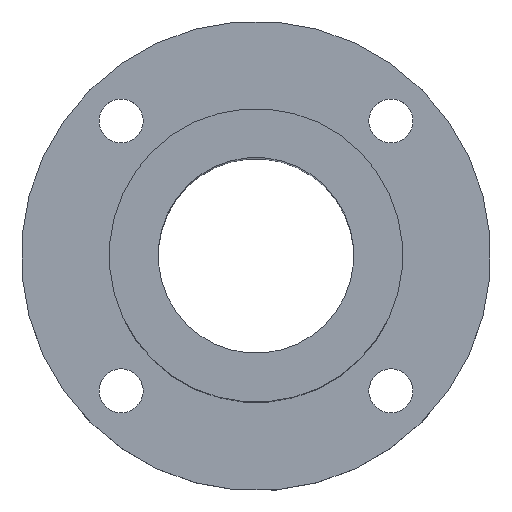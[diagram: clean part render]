
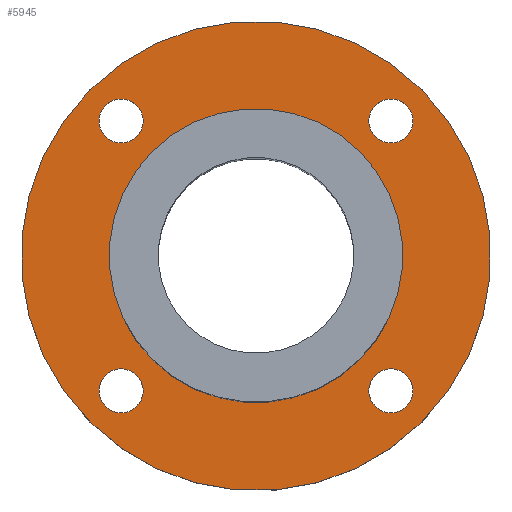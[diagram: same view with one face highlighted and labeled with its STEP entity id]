
A CAD part, top view. The second image highlights one B-rep face of the part: STEP entity #5945.
In plain terms, the highlighted planar face has unit normal (0, 0, 1).
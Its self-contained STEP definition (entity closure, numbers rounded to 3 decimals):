
#108=CIRCLE('',#6318,30.);
#112=CIRCLE('',#6326,48.);
#113=CIRCLE('',#6328,4.5);
#114=CIRCLE('',#6329,4.5);
#115=CIRCLE('',#6330,4.5);
#116=CIRCLE('',#6331,4.5);
#518=ORIENTED_EDGE('',*,*,#2222,.F.);
#519=ORIENTED_EDGE('',*,*,#2223,.F.);
#520=ORIENTED_EDGE('',*,*,#2224,.F.);
#521=ORIENTED_EDGE('',*,*,#2225,.F.);
#522=ORIENTED_EDGE('',*,*,#2217,.T.);
#523=ORIENTED_EDGE('',*,*,#2221,.T.);
#2217=EDGE_CURVE('',#3072,#3072,#108,.F.);
#2221=EDGE_CURVE('',#3076,#3076,#112,.T.);
#2222=EDGE_CURVE('',#3077,#3077,#113,.T.);
#2223=EDGE_CURVE('',#3078,#3078,#114,.T.);
#2224=EDGE_CURVE('',#3079,#3079,#115,.T.);
#2225=EDGE_CURVE('',#3080,#3080,#116,.T.);
#3072=VERTEX_POINT('',#9331);
#3076=VERTEX_POINT('',#9343);
#3077=VERTEX_POINT('',#9346);
#3078=VERTEX_POINT('',#9348);
#3079=VERTEX_POINT('',#9350);
#3080=VERTEX_POINT('',#9352);
#4869=EDGE_LOOP('',(#518));
#4870=EDGE_LOOP('',(#519));
#4871=EDGE_LOOP('',(#520));
#4872=EDGE_LOOP('',(#521));
#4873=EDGE_LOOP('',(#522));
#4874=EDGE_LOOP('',(#523));
#5296=FACE_BOUND('',#4869,.T.);
#5297=FACE_BOUND('',#4870,.T.);
#5298=FACE_BOUND('',#4871,.T.);
#5299=FACE_BOUND('',#4872,.T.);
#5300=FACE_BOUND('',#4873,.T.);
#5301=FACE_BOUND('',#4874,.T.);
#5665=PLANE('',#6327);
#5945=ADVANCED_FACE('',(#5296,#5297,#5298,#5299,#5300,#5301),#5665,.T.);
#6318=AXIS2_PLACEMENT_3D('',#9330,#6873,#6874);
#6326=AXIS2_PLACEMENT_3D('',#9342,#6889,#6890);
#6327=AXIS2_PLACEMENT_3D('',#9344,#6891,#6892);
#6328=AXIS2_PLACEMENT_3D('',#9345,#6893,#6894);
#6329=AXIS2_PLACEMENT_3D('',#9347,#6895,#6896);
#6330=AXIS2_PLACEMENT_3D('',#9349,#6897,#6898);
#6331=AXIS2_PLACEMENT_3D('',#9351,#6899,#6900);
#6873=DIRECTION('',(0.,0.,1.));
#6874=DIRECTION('',(0.707,-0.707,0.));
#6889=DIRECTION('',(0.,0.,1.));
#6890=DIRECTION('',(0.707,-0.707,0.));
#6891=DIRECTION('',(0.,0.,1.));
#6892=DIRECTION('',(0.707,-0.707,0.));
#6893=DIRECTION('',(0.,0.,1.));
#6894=DIRECTION('',(0.707,-0.707,0.));
#6895=DIRECTION('',(0.,0.,1.));
#6896=DIRECTION('',(0.707,-0.707,0.));
#6897=DIRECTION('',(0.,0.,1.));
#6898=DIRECTION('',(0.707,-0.707,0.));
#6899=DIRECTION('',(0.,0.,1.));
#6900=DIRECTION('',(0.707,-0.707,0.));
#9330=CARTESIAN_POINT('',(0.,0.,0.));
#9331=CARTESIAN_POINT('',(21.213,-21.213,0.));
#9342=CARTESIAN_POINT('',(0.,0.,0.));
#9343=CARTESIAN_POINT('',(33.941,-33.941,0.));
#9344=CARTESIAN_POINT('',(0.,0.,0.));
#9345=CARTESIAN_POINT('',(27.577,27.577,0.));
#9346=CARTESIAN_POINT('',(30.759,24.395,0.));
#9347=CARTESIAN_POINT('',(-27.577,27.577,0.));
#9348=CARTESIAN_POINT('',(-24.395,24.395,0.));
#9349=CARTESIAN_POINT('',(-27.577,-27.577,0.));
#9350=CARTESIAN_POINT('',(-24.395,-30.759,0.));
#9351=CARTESIAN_POINT('',(27.577,-27.577,0.));
#9352=CARTESIAN_POINT('',(30.759,-30.759,0.));
